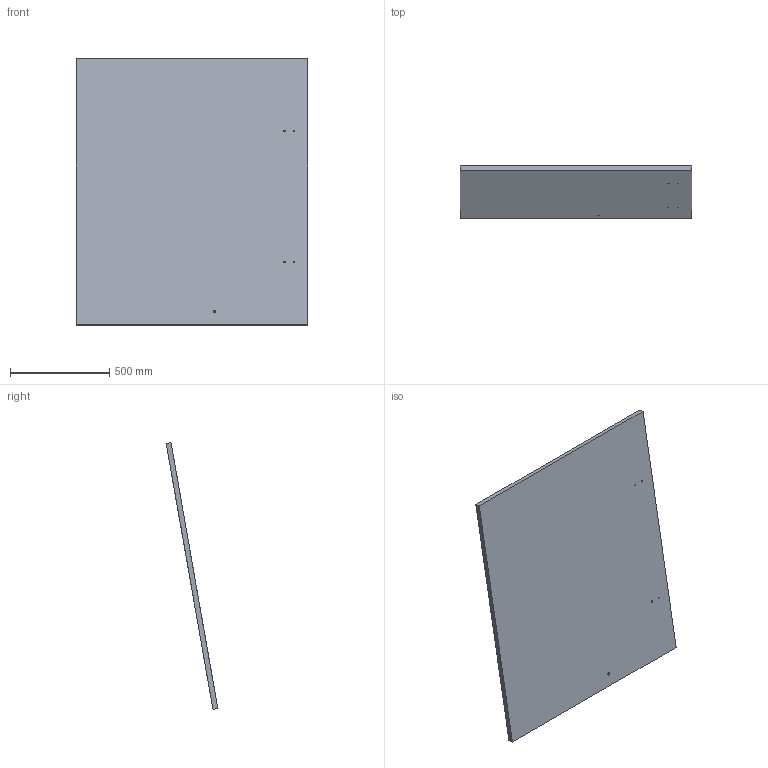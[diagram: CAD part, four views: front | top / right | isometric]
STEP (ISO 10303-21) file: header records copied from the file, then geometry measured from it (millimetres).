
FILE_DESCRIPTION(('golf model'),'2;1');
FILE_NAME('golf','',(''),(''),'golf_step_io','golf','');
FILE_SCHEMA(('AUTOMOTIVE_DESIGN { 1 0 10303 214 1 1 1 1 }'));
Length unit declared in the file: millimetre
Products named in the file (2): ASSEMBLY; bed.substrate.2
Assembly tree (1 placements, depth 2):
  ASSEMBLY
    bed.substrate.2
Bounding box: 1165.11 x 259.77 x 1340.64 mm (x, y, z)
Volume: 38729345.8 mm3; surface area: 3288195.4 mm2
Topology: 1 solids, 1 shells, 11 faces, 27 edges, 18 vertices
Faces by surface type: plane 6, cylinder 5
Full cylindrical faces by diameter (mm): 6.6 x4, 13 x1
Entity records: 360 total; most frequent: DIRECTION 58, CARTESIAN_POINT 53, ORIENTED_EDGE 44, EDGE_LOOP 26, FACE_BOUND 24, AXIS2_PLACEMENT_3D 23, EDGE_CURVE 22, VERTEX_POINT 18
